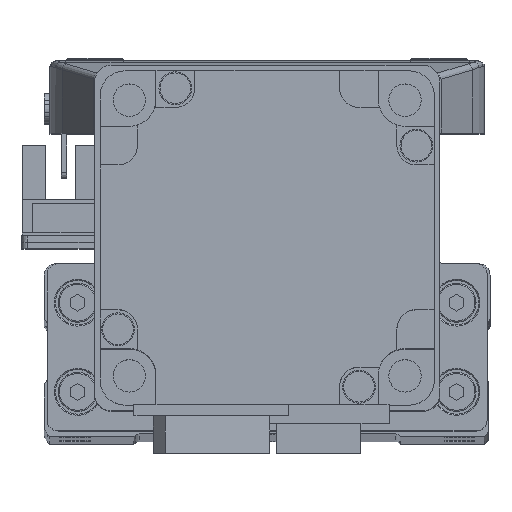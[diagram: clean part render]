
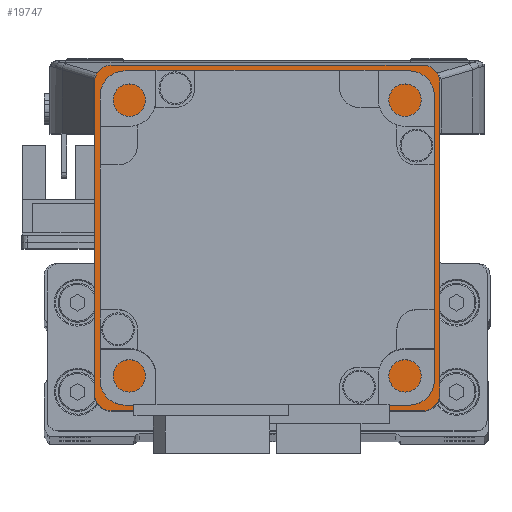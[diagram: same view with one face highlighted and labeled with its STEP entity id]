
A CAD part, top view. The second image highlights one B-rep face of the part: STEP entity #19747.
In plain terms, the highlighted planar face has unit normal (0, 0, 1).
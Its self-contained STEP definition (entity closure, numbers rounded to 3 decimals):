
#4040 = AXIS2_PLACEMENT_3D ( 'NONE', #6052, #6020, #6050 ) ;
#4798 = AXIS2_PLACEMENT_3D ( 'NONE', #38191, #38208, #38207 ) ;
#6020 = DIRECTION ( 'NONE',  ( 0., 0., 1. ) ) ;
#6043 = PLANE ( 'NONE',  #4040 ) ;
#6050 = DIRECTION ( 'NONE',  ( 1., 0., 0. ) ) ;
#6052 = CARTESIAN_POINT ( 'NONE',  ( 0., 0., 79. ) ) ;
#6767 = EDGE_CURVE ( 'NONE', #28747, #28755, #45597, .T. ) ;
#6854 = EDGE_CURVE ( 'NONE', #44728, #44813, #45727, .T. ) ;
#6880 = EDGE_CURVE ( 'NONE', #44813, #44805, #45782, .T. ) ;
#6882 = EDGE_CURVE ( 'NONE', #44823, #44819, #45797, .T. ) ;
#6888 = EDGE_CURVE ( 'NONE', #44819, #44774, #45807, .T. ) ;
#6892 = EDGE_CURVE ( 'NONE', #44805, #44770, #45779, .T. ) ;
#6906 = EDGE_CURVE ( 'NONE', #44768, #44728, #45811, .T. ) ;
#6921 = EDGE_CURVE ( 'NONE', #44774, #44768, #45873, .T. ) ;
#6924 = EDGE_CURVE ( 'NONE', #44770, #44823, #45905, .T. ) ;
#7038 = FACE_BOUND ( 'NONE', #32072, .T. ) ;
#7040 = FACE_OUTER_BOUND ( 'NONE', #32077, .T. ) ;
#7979 = AXIS2_PLACEMENT_3D ( 'NONE', #42307, #42284, #42293 ) ;
#7993 = AXIS2_PLACEMENT_3D ( 'NONE', #46898, #46886, #46907 ) ;
#7994 = AXIS2_PLACEMENT_3D ( 'NONE', #47010, #46948, #47023 ) ;
#7998 = AXIS2_PLACEMENT_3D ( 'NONE', #47106, #47050, #47096 ) ;
#8024 = AXIS2_PLACEMENT_3D ( 'NONE', #46881, #46945, #46890 ) ;
#15570 = ORIENTED_EDGE ( 'NONE', *, *, #22465, .F. ) ;
#15572 = ORIENTED_EDGE ( 'NONE', *, *, #6906, .T. ) ;
#15581 = ORIENTED_EDGE ( 'NONE', *, *, #6924, .T. ) ;
#15601 = ORIENTED_EDGE ( 'NONE', *, *, #6882, .T. ) ;
#15604 = ORIENTED_EDGE ( 'NONE', *, *, #6921, .T. ) ;
#15608 = ORIENTED_EDGE ( 'NONE', *, *, #6892, .T. ) ;
#15611 = ORIENTED_EDGE ( 'NONE', *, *, #6767, .F. ) ;
#15613 = ORIENTED_EDGE ( 'NONE', *, *, #6880, .T. ) ;
#15617 = ORIENTED_EDGE ( 'NONE', *, *, #6854, .T. ) ;
#15632 = ORIENTED_EDGE ( 'NONE', *, *, #6888, .T. ) ;
#19747 = ADVANCED_FACE ( 'NONE', ( #7038, #7040 ), #6043, .T. ) ;
#20157 = CARTESIAN_POINT ( 'NONE',  ( 25., 35.5, 79. ) ) ;
#20178 = CARTESIAN_POINT ( 'NONE',  ( -25., 35.5, 79. ) ) ;
#20871 = CARTESIAN_POINT ( 'NONE',  ( 27.995, 4.505, 79. ) ) ;
#20885 = CARTESIAN_POINT ( 'NONE',  ( -27.995, 66.495, 79. ) ) ;
#20890 = CARTESIAN_POINT ( 'NONE',  ( 30.995, 7.505, 79. ) ) ;
#20903 = CARTESIAN_POINT ( 'NONE',  ( -27.995, 4.505, 79. ) ) ;
#20917 = CARTESIAN_POINT ( 'NONE',  ( -30.995, 7.505, 79. ) ) ;
#20936 = CARTESIAN_POINT ( 'NONE',  ( 27.995, 66.495, 79. ) ) ;
#20960 = CARTESIAN_POINT ( 'NONE',  ( -30.995, 63.495, 79. ) ) ;
#20968 = CARTESIAN_POINT ( 'NONE',  ( 30.995, 63.495, 79. ) ) ;
#22465 = EDGE_CURVE ( 'NONE', #28755, #28747, #34889, .T. ) ;
#28747 = VERTEX_POINT ( 'NONE', #20157 ) ;
#28755 = VERTEX_POINT ( 'NONE', #20178 ) ;
#32072 = EDGE_LOOP ( 'NONE', ( #15611, #15570 ) ) ;
#32077 = EDGE_LOOP ( 'NONE', ( #15601, #15632, #15604, #15572, #15617, #15613, #15608, #15581 ) ) ;
#34889 = CIRCLE ( 'NONE', #4798, 25. ) ;
#38191 = CARTESIAN_POINT ( 'NONE',  ( 0., 35.5, 79. ) ) ;
#38207 = DIRECTION ( 'NONE',  ( 1., 0., 0. ) ) ;
#38208 = DIRECTION ( 'NONE',  ( 0., 0., 1. ) ) ;
#42284 = DIRECTION ( 'NONE',  ( 0., 0., 1. ) ) ;
#42293 = DIRECTION ( 'NONE',  ( 1., 0., 0. ) ) ;
#42307 = CARTESIAN_POINT ( 'NONE',  ( 0., 35.5, 79. ) ) ;
#44728 = VERTEX_POINT ( 'NONE', #20890 ) ;
#44768 = VERTEX_POINT ( 'NONE', #20871 ) ;
#44770 = VERTEX_POINT ( 'NONE', #20885 ) ;
#44774 = VERTEX_POINT ( 'NONE', #20903 ) ;
#44805 = VERTEX_POINT ( 'NONE', #20936 ) ;
#44813 = VERTEX_POINT ( 'NONE', #20968 ) ;
#44819 = VERTEX_POINT ( 'NONE', #20917 ) ;
#44823 = VERTEX_POINT ( 'NONE', #20960 ) ;
#45597 = CIRCLE ( 'NONE', #7979, 25. ) ;
#45727 = LINE ( 'NONE', #46830, #45733 ) ;
#45733 = VECTOR ( 'NONE', #46832, 1000. ) ;
#45779 = LINE ( 'NONE', #46897, #45837 ) ;
#45782 = CIRCLE ( 'NONE', #8024, 3. ) ;
#45789 = VECTOR ( 'NONE', #46941, 1000. ) ;
#45797 = LINE ( 'NONE', #46889, #45789 ) ;
#45807 = CIRCLE ( 'NONE', #7993, 3. ) ;
#45811 = CIRCLE ( 'NONE', #7994, 3. ) ;
#45837 = VECTOR ( 'NONE', #46909, 1000. ) ;
#45870 = VECTOR ( 'NONE', #46967, 1000. ) ;
#45873 = LINE ( 'NONE', #47005, #45870 ) ;
#45905 = CIRCLE ( 'NONE', #7998, 3. ) ;
#46830 = CARTESIAN_POINT ( 'NONE',  ( 30.995, 4.505, 79. ) ) ;
#46832 = DIRECTION ( 'NONE',  ( 0., 1., 0. ) ) ;
#46881 = CARTESIAN_POINT ( 'NONE',  ( 27.995, 63.495, 79. ) ) ;
#46886 = DIRECTION ( 'NONE',  ( 0., 0., 1. ) ) ;
#46889 = CARTESIAN_POINT ( 'NONE',  ( -30.995, 4.505, 79. ) ) ;
#46890 = DIRECTION ( 'NONE',  ( 1., 0., 0. ) ) ;
#46897 = CARTESIAN_POINT ( 'NONE',  ( 30.995, 66.495, 79. ) ) ;
#46898 = CARTESIAN_POINT ( 'NONE',  ( -27.995, 7.505, 79. ) ) ;
#46907 = DIRECTION ( 'NONE',  ( 1., 0., 0. ) ) ;
#46909 = DIRECTION ( 'NONE',  ( -1., 0., 0. ) ) ;
#46941 = DIRECTION ( 'NONE',  ( 0., -1., 0. ) ) ;
#46945 = DIRECTION ( 'NONE',  ( 0., 0., 1. ) ) ;
#46948 = DIRECTION ( 'NONE',  ( 0., 0., 1. ) ) ;
#46967 = DIRECTION ( 'NONE',  ( 1., 0., 0. ) ) ;
#47005 = CARTESIAN_POINT ( 'NONE',  ( 30.995, 4.505, 79. ) ) ;
#47010 = CARTESIAN_POINT ( 'NONE',  ( 27.995, 7.505, 79. ) ) ;
#47023 = DIRECTION ( 'NONE',  ( 1., 0., 0. ) ) ;
#47050 = DIRECTION ( 'NONE',  ( 0., 0., 1. ) ) ;
#47096 = DIRECTION ( 'NONE',  ( 1., 0., 0. ) ) ;
#47106 = CARTESIAN_POINT ( 'NONE',  ( -27.995, 63.495, 79. ) ) ;
